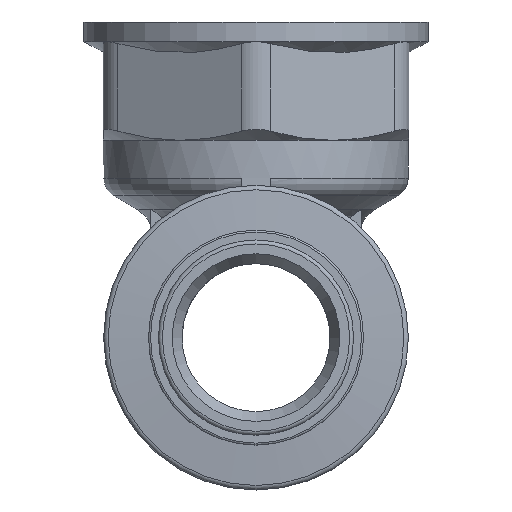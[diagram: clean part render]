
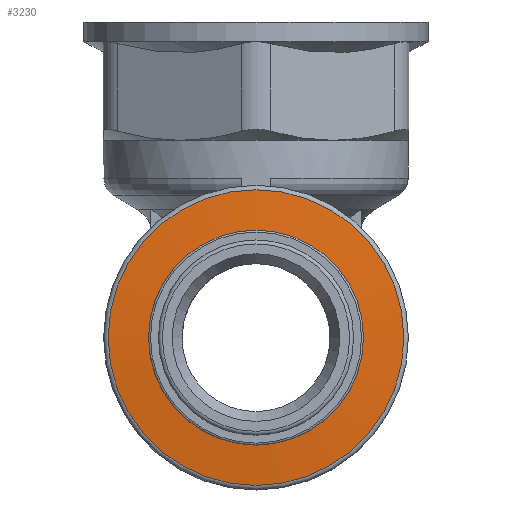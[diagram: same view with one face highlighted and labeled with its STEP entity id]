
A CAD part, front view. The second image highlights one B-rep face of the part: STEP entity #3230.
In plain terms, the highlighted conical face has half-angle 85 degrees and reference radius 12.653 mm.
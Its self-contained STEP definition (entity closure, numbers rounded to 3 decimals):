
#3230=ADVANCED_FACE('',(#6516,#6518),#6520,.T.);
#6516=FACE_OUTER_BOUND('',#6517,.T.);
#6517=EDGE_LOOP('',(#9205));
#6518=FACE_OUTER_BOUND('',#6519,.T.);
#6519=EDGE_LOOP('',(#9206));
#6520=CONICAL_SURFACE('',#6521,12.653,1.484);
#6521=AXIS2_PLACEMENT_3D('',#6522,#6523,#6524);
#6522=CARTESIAN_POINT('',(0.,-28.495,0.));
#6523=DIRECTION('',(0.,1.,0.));
#6524=DIRECTION('',(-1.,0.,0.));
#9205=ORIENTED_EDGE('',*,*,#10221,.T.);
#9206=ORIENTED_EDGE('',*,*,#10217,.T.);
#10217=EDGE_CURVE('',#11810,#11810,#11811,.F.);
#10221=EDGE_CURVE('',#11818,#11818,#11819,.T.);
#11810=VERTEX_POINT('',#17691);
#11811=CIRCLE('',#17692,14.994);
#11818=VERTEX_POINT('',#17711);
#11819=CIRCLE('',#17712,10.313);
#17691=CARTESIAN_POINT('',(-14.994,-28.29,0.));
#17692=AXIS2_PLACEMENT_3D('',#17693,#17694,#17695);
#17693=CARTESIAN_POINT('',(0.,-28.29,0.));
#17694=DIRECTION('',(0.,1.,0.));
#17695=DIRECTION('',(-1.,0.,0.));
#17711=CARTESIAN_POINT('',(-10.313,-28.699,0.));
#17712=AXIS2_PLACEMENT_3D('',#17713,#17714,#17715);
#17713=CARTESIAN_POINT('',(0.,-28.699,0.));
#17714=DIRECTION('',(0.,1.,0.));
#17715=DIRECTION('',(-1.,0.,0.));
